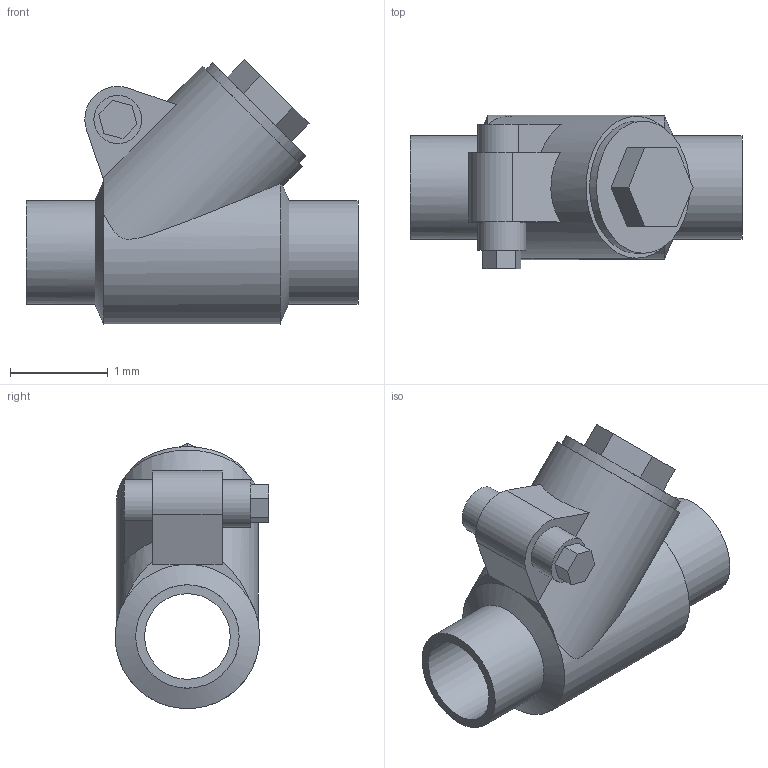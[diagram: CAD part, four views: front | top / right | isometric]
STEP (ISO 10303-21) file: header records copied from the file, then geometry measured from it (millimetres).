
FILE_DESCRIPTION(('Open CASCADE Model'),'2;1');
FILE_NAME('Open CASCADE Shape Model','2022-06-29T15:28:38',('Author'),( 'Open CASCADE'),'Open CASCADE STEP processor 7.3','Open CASCADE 7.3' ,'Unknown');
FILE_SCHEMA(('AUTOMOTIVE_DESIGN { 1 0 10303 214 1 1 1 1 }'));
Length unit declared in the file: millimetre
Products named in the file (1): Open CASCADE STEP translator 7.3 1
Bounding box: 3.39 x 1.57 x 2.7 mm (x, y, z)
Volume: 4.7 mm3; surface area: 35.1 mm2
Topology: 1 solids, 1 shells, 47 faces, 108 edges, 71 vertices
Faces by surface type: plane 32, cylinder 13, cone 2
Full cylindrical faces by diameter (mm): 0.49 x1, 0.875 x2, 0.982 x1, 1.056 x2, 1.057 x2, 1.35 x1, 1.45 x1
Entity records: 3206 total; most frequent: CARTESIAN_POINT 1015, DIRECTION 406, LINE 228, VECTOR 228, ORIENTED_EDGE 216, PCURVE 216, DEFINITIONAL_REPRESENTATION 216, EDGE_CURVE 108
